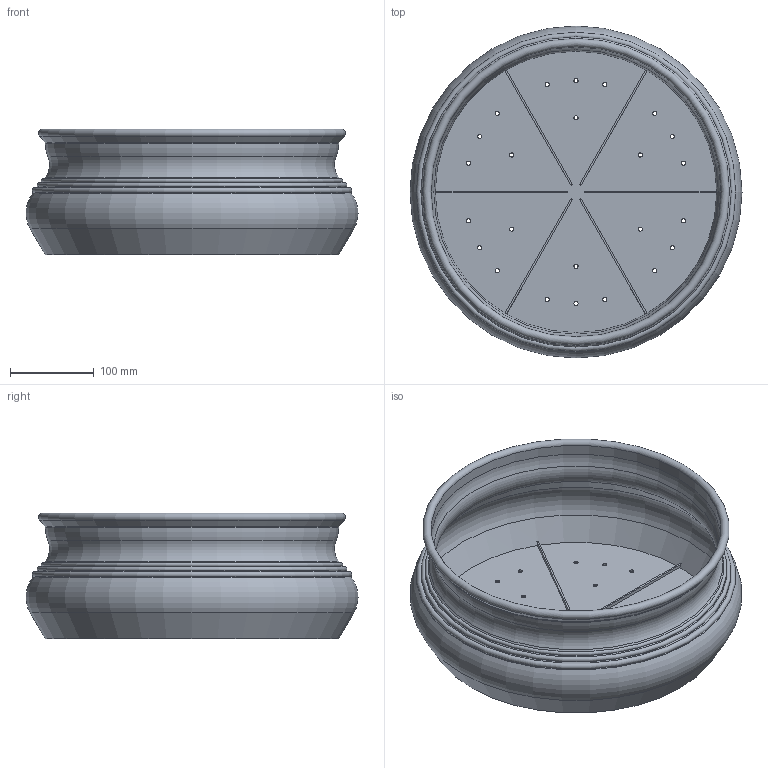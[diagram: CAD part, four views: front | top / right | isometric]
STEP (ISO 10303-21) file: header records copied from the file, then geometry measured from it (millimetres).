
FILE_DESCRIPTION(/* description */ (''),/* implementation_level */ '2;1');
FILE_NAME(/* name */ 'LR2406-S20-H150-D400_step.step',/* time_stamp */ '2024-02-01T11:02:12+01:00',/* author */ (''),/* organization */ (''),/* preprocessor_version */ 'ST-DEVELOPER v20',/* originating_system */ 'Autodesk Translation Framework v12.20.1.177',/* authorisation */ '');
FILE_SCHEMA (('AUTOMOTIVE_DESIGN { 1 0 10303 214 3 1 1 }'));
Length unit declared in the file: millimetre
Products named in the file (1): LR2406-S20-H150-D400
Bounding box: 395.99 x 395.99 x 150 mm (x, y, z)
Volume: 708897.4 mm3; surface area: 591957.7 mm2
Topology: 1 solids, 1 shells, 70 faces, 185 edges, 117 vertices
Faces by surface type: cylinder 32, plane 20, torus 10, cone 8
Full cylindrical faces by diameter (mm): 5 x24, 346 x1, 350 x1
Entity records: 2336 total; most frequent: DIRECTION 430, CARTESIAN_POINT 373, ORIENTED_EDGE 370, EDGE_CURVE 185, AXIS2_PLACEMENT_3D 174, EDGE_LOOP 118, VERTEX_POINT 117, CIRCLE 103
